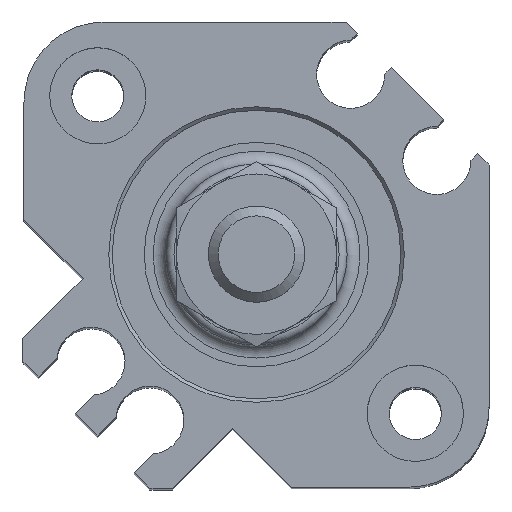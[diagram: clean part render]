
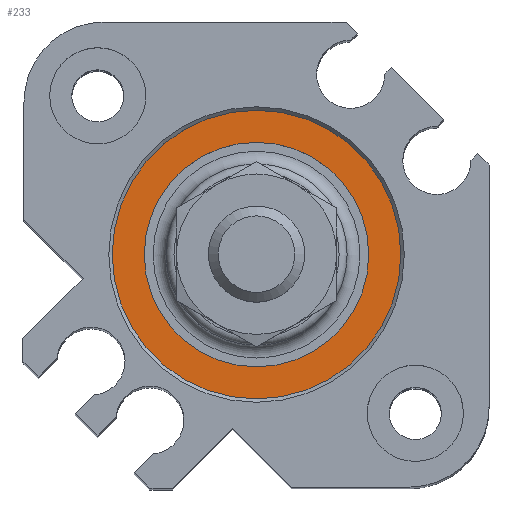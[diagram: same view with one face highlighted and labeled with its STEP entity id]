
A CAD part, top view. The second image highlights one B-rep face of the part: STEP entity #233.
In plain terms, the highlighted planar face has unit normal (0, 0, 1).
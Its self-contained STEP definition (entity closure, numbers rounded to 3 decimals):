
#233 = ADVANCED_FACE( '', ( #529, #530 ), #531, .T. );
#529 = FACE_BOUND( '', #915, .T. );
#530 = FACE_OUTER_BOUND( '', #916, .T. );
#531 = PLANE( '', #917 );
#915 = EDGE_LOOP( '', ( #1408 ) );
#916 = EDGE_LOOP( '', ( #1409 ) );
#917 = AXIS2_PLACEMENT_3D( '', #1410, #1411, #1412 );
#1408 = ORIENTED_EDGE( '', *, *, #2125, .T. );
#1409 = ORIENTED_EDGE( '', *, *, #2133, .F. );
#1410 = CARTESIAN_POINT( '', ( 0., 9., -1.2 ) );
#1411 = DIRECTION( '', ( 0., 0., 1. ) );
#1412 = DIRECTION( '', ( 1., 0., 0. ) );
#2125 = EDGE_CURVE( '', #2505, #2505, #2506, .T. );
#2133 = EDGE_CURVE( '', #2518, #2518, #2519, .T. );
#2505 = VERTEX_POINT( '', #3040 );
#2506 = CIRCLE( '', #3041, 7. );
#2518 = VERTEX_POINT( '', #3057 );
#2519 = CIRCLE( '', #3058, 9. );
#3040 = CARTESIAN_POINT( '', ( -7., 0., -1.2 ) );
#3041 = AXIS2_PLACEMENT_3D( '', #3562, #3563, #3564 );
#3057 = CARTESIAN_POINT( '', ( -9., 0., -1.2 ) );
#3058 = AXIS2_PLACEMENT_3D( '', #3569, #3570, #3571 );
#3562 = CARTESIAN_POINT( '', ( 0., 0., -1.2 ) );
#3563 = DIRECTION( '', ( 0., 0., -1. ) );
#3564 = DIRECTION( '', ( -1., 0., 0. ) );
#3569 = CARTESIAN_POINT( '', ( 0., 0., -1.2 ) );
#3570 = DIRECTION( '', ( 0., 0., -1. ) );
#3571 = DIRECTION( '', ( -1., 0., 0. ) );
